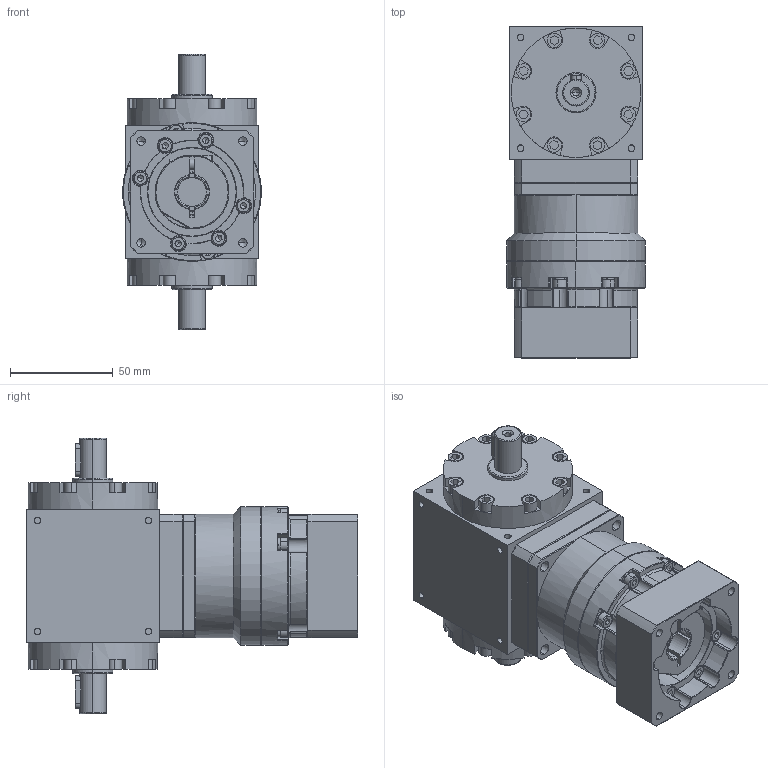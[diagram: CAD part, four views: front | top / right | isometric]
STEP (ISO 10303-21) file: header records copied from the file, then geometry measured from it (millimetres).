
FILE_DESCRIPTION (( 'STEP AP203' ), '1' );
FILE_NAME ('AT065-FL-L1 14-50-70-M5.STEP', '2024-12-18T08:54:37', ( '' ), ( '' ), 'SwSTEP 2.0', 'SolidWorks 2021', '' );
FILE_SCHEMA (( 'CONFIG_CONTROL_DESIGN' ));
Length unit declared in the file: millimetre
Products named in the file (3): AT065-FL-L1 14-50-70-M5; AT065-FL; VRB-060-L1-S2-P1 14-50-70-M5
Assembly tree (2 placements, depth 2):
  AT065-FL-L1 14-50-70-M5
    AT065-FL
    VRB-060-L1-S2-P1 14-50-70-M5
Bounding box: 67.5 x 161.5 x 134 mm (x, y, z)
Volume: 637118.5 mm3; surface area: 107971.9 mm2
Topology: 33 solids, 33 shells, 1510 faces, 3777 edges, 2374 vertices
Faces by surface type: plane 638, cylinder 574, cone 224, torus 54, bspline 20
Entity records: 46038 total; most frequent: CARTESIAN_POINT 9689, DIRECTION 7814, ORIENTED_EDGE 7430, EDGE_CURVE 3715, AXIS2_PLACEMENT_3D 3008, VERTEX_POINT 2374, LINE 1798, VECTOR 1798
